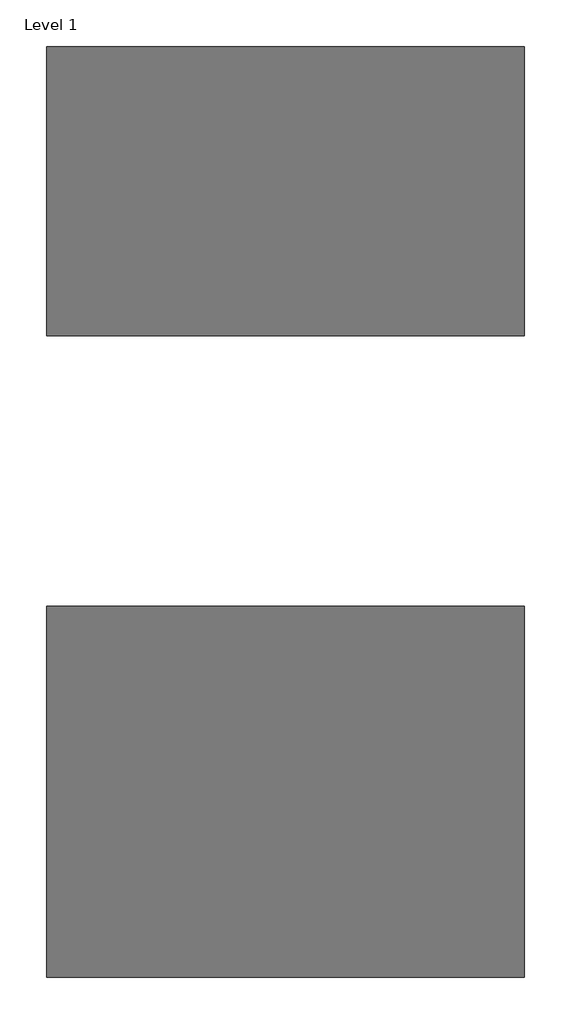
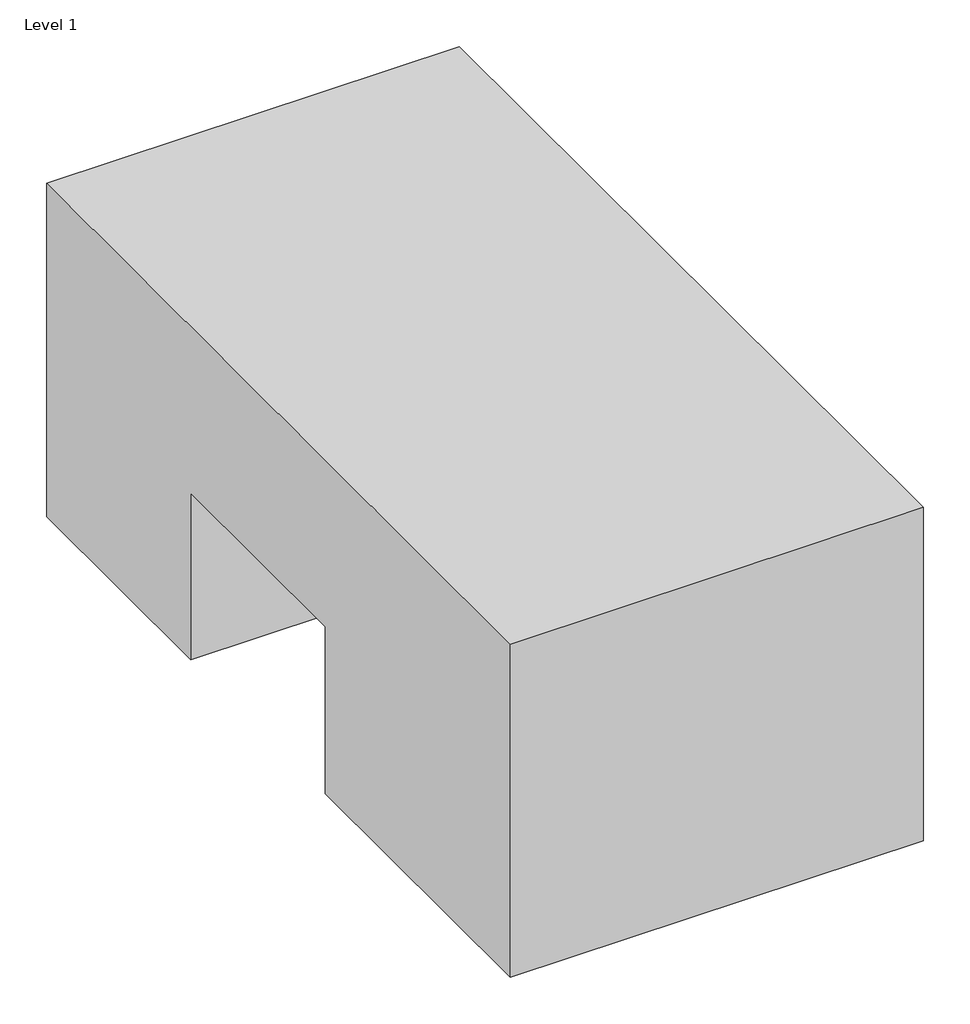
# One storey: 1 proxy.
"""IFC4 building model written with IfcOpenShell, lengths in millimetres."""

from ifc_helpers import new_model, si_unit, frame, origin, place, context, project, spatial, polyline, outline, extrude, element, save

model = new_model("IFC4")

# Units and contexts
model_context = context("Model", 3, world=origin())
ifc_project = project(units=[si_unit("LENGTHUNIT", "METRE", prefix="MILLI")], contexts=[model_context])

# Site, building, storey
site = spatial("IfcSite", under=ifc_project)
building = spatial("IfcBuilding", under=site)
storey = spatial("IfcBuildingStorey", under=building, Name="Level 1", Elevation=0.0)

# Proxy
placement = place(None, origin())
element("IfcBuildingElementProxy", 1, Name="Mass 1 : Mass 1", ObjectType="Mass 1 : Mass 1", at=placement, inside=storey, context=model_context, shape_type="SweptSolid", body=[
    extrude(outline(polyline([(-5313.8596495, 6096.0), (8579.3640575, 6096.0), (8579.3640575, 0.0), (4265.3874777, 0.0), (4265.3874777, 3048.0), (226.9320675, 3048.0), (226.9320675, 0.0), (-5313.8596495, 0.0), (-5313.8596495, 6096.0)])), frame((-1860.5920658, 0.0, 0.0), z_axis=(1.0, 0.0, 0.0), x_axis=(0.0, 1.0, 0.0)), (0.0, 0.0, 1.0), 7136.8922457),
])

save(model, "model.ifc")
